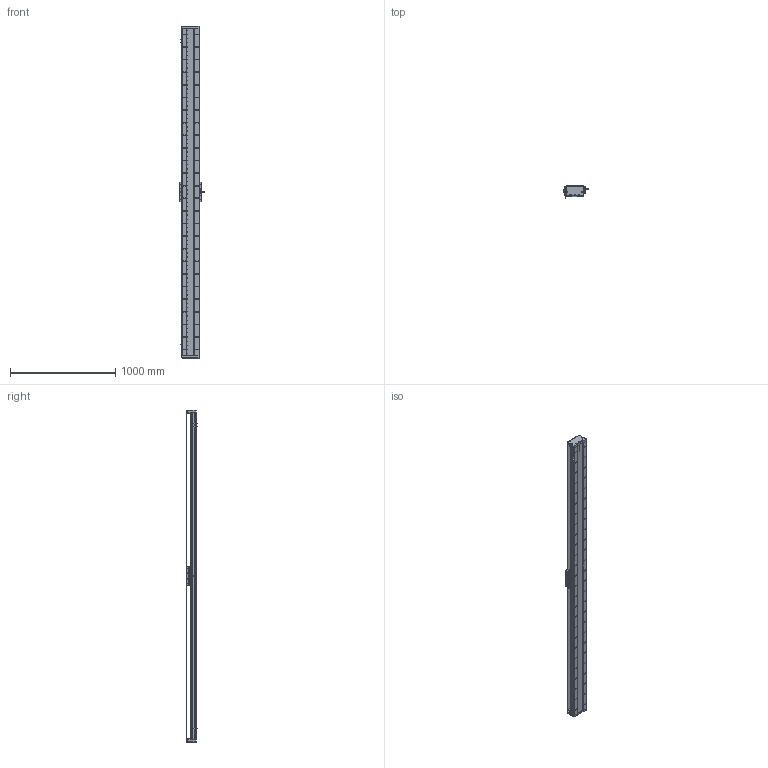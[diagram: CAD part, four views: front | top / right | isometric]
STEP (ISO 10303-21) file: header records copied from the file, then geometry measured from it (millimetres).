
FILE_DESCRIPTION (( 'STEP AP203' ), '1' );
FILE_NAME ('DA-C165-C2-T2880-C010-0.2 直线电机.STEP', '2023-05-11T07:52:27', ( '微软用户' ), ( '微软中国' ), 'SwSTEP 2.0', 'SolidWorks 2019', '' );
FILE_SCHEMA (( 'CONFIG_CONTROL_DESIGN' ));
Length unit declared in the file: millimetre
Products named in the file (18): 复件 DMA-010-0.2 读数头^DA-C165-C2-T-C010-0.2-N 直线电机; 复件 CKM02-W075-C1C2-TP-3.0 一体电机-C2^DA-C165-C2-T-C010-0.2-N 直线电机; 复件 DA165-GDLK-00 钢带拉块^复件 CU165钢带组件_DA-C165-C2-T-C010-0.2-N 直线电机; 葩璃 CKM01-W075-TRL^DA-C165-C2-T-C010-0.2-N 眻盄萇儂; 葩璃 PM-T45^DA-C165-C2-T-C010-0.2-N 眻盄萇儂; 复件 DA165-GD-1860-002-00 钢带盖板^复件 CU165钢带组件_DA-C165-C2-T-C010-0.2-N 直线电机; 复件 DA165-GD-DG-H-00 端盖^复件 CU165钢带组件_DA-C165-C2-T-C010-0.2-N 直线电机; 复件 DA165-GYP-00 光电感应片^DA-C165-C2-T-C010-0.2-N 直线电机; IU-CU165-L 菁釱絳寢; DA-C165-C2-T2880-C010-0.2 眻盄萇儂; 复件 XD-U-02L 磁栅尺^DA-C165-C2-T-C010-0.2-N 直线电机_T; 复件 CU165钢带组件^DA-C165-C2-T-C010-0.2-N 直线电机; 珨极趙賑雄怢啣wf-C2; 复件 六角薄螺母 M3^DA-C165-C2-T-C010-0.2-N 直线电机_GB_FASTENER_NUT_STNAB M3-C; 葩璃 DA95-GT-T-00^IU-CU165-L 菁釱絳寢_T; IU-CU165-L-00 菁釱_L3120; 复件 DA165-GDYK-00 钢带压块^复件 CU165钢带组件_DA-C165-C2-T-C010-0.2-N 直线电机; 复件 DA95-HXJ-00 缓冲橡胶^DA-C165-C2-T-C010-0.2-N 直线电机
Assembly tree (33 placements, depth 3):
  DA-C165-C2-T2880-C010-0.2 眻盄萇儂
    IU-CU165-L 菁釱絳寢
      IU-CU165-L-00 菁釱_L3120
      葩璃 DA95-GT-T-00^IU-CU165-L 菁釱絳寢_T  x4
    复件 XD-U-02L 磁栅尺^DA-C165-C2-T-C010-0.2-N 直线电机_T
    葩璃 PM-T45^DA-C165-C2-T-C010-0.2-N 眻盄萇儂  x3
    葩璃 CKM01-W075-TRL^DA-C165-C2-T-C010-0.2-N 眻盄萇儂
    复件 CU165钢带组件^DA-C165-C2-T-C010-0.2-N 直线电机
      复件 DA165-GD-DG-H-00 端盖^复件 CU165钢带组件_DA-C165-C2-T-C010-0.2-N 直线电机  x2
      复件 DA165-GDYK-00 钢带压块^复件 CU165钢带组件_DA-C165-C2-T-C010-0.2-N 直线电机  x2
      复件 DA165-GD-1860-002-00 钢带盖板^复件 CU165钢带组件_DA-C165-C2-T-C010-0.2-N 直线电机
      复件 DA165-GDLK-00 钢带拉块^复件 CU165钢带组件_DA-C165-C2-T-C010-0.2-N 直线电机  x2
    复件 DA95-HXJ-00 缓冲橡胶^DA-C165-C2-T-C010-0.2-N 直线电机  x4
    复件 DA165-GYP-00 光电感应片^DA-C165-C2-T-C010-0.2-N 直线电机
    复件 DMA-010-0.2 读数头^DA-C165-C2-T-C010-0.2-N 直线电机
    复件 CKM02-W075-C1C2-TP-3.0 一体电机-C2^DA-C165-C2-T-C010-0.2-N 直线电机
    复件 六角薄螺母 M3^DA-C165-C2-T-C010-0.2-N 直线电机_GB_FASTENER_NUT_STNAB M3-C  x6
    珨极趙賑雄怢啣wf-C2
Bounding box: 233 x 111.45 x 3160 mm (x, y, z)
Volume: 17156897 mm3; surface area: 5219873.8 mm2
Topology: 70 solids, 70 shells, 4147 faces, 12395 edges, 7953 vertices
Faces by surface type: cylinder 2549, plane 1118, cone 430, torus 46, sphere 4
Entity records: 144351 total; most frequent: CARTESIAN_POINT 40257, ORIENTED_EDGE 21962, DIRECTION 20831, EDGE_CURVE 10981, AXIS2_PLACEMENT_3D 7991, VERTEX_POINT 7189, EDGE_LOOP 4978, VECTOR 4849
